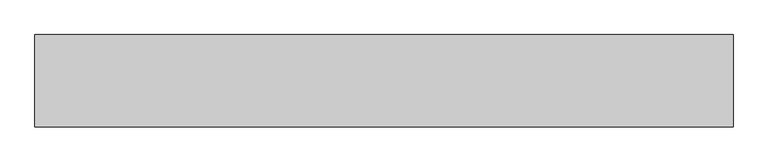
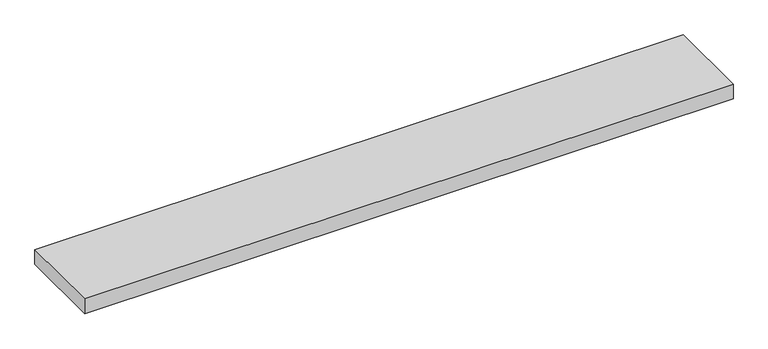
"""IFC4 building model written with IfcOpenShell, lengths in millimetres: proxy geometry, Modèles génériques 7 : Modèles génériques 7."""

from ifc_helpers import new_model, si_unit, frame, origin, place, context, project, spatial, polyline, outline, extrude, source, transform, mapped, element, save


def generic_models_5fac37e3(model_context):
    return source(origin(), model_context, "Body", "SweptSolid", [
        extrude(outline(polyline([(-7228.7993027, 3203.736413), (1071.2006973, 3203.736413), (1071.2006973, 2103.736413), (-7228.7993027, 2103.736413), (-7228.7993027, 3203.736413)])), frame((0.0, 0.0, -260.0), z_axis=(0.0, 0.0, 1.0), x_axis=(1.0, 0.0, 0.0)), (0.0, 0.0, 1.0), 200.0),
    ])


if __name__ == "__main__":
    model = new_model("IFC4")
    model_context = context("Model", 3, world=origin())
    ifc_project = project(units=[si_unit("LENGTHUNIT", "METRE", prefix="MILLI")], contexts=[model_context])
    site = spatial("IfcSite", under=ifc_project)
    building = spatial("IfcBuilding", under=site)
    placement = place(None, origin())
    generic_models_shape = generic_models_5fac37e3(model_context)
    element("IfcBuildingElementProxy", 1, Name="Modèles génériques 7 : Modèles génériques 7", ObjectType="Modèles génériques 7 : Modèles génériques 7", at=placement, inside=building, context=model_context, shape_type="MappedRepresentation", body=[
        mapped(generic_models_shape, transform((0.0, 0.0, 0.0), x_axis=(1.0, 0.0, 0.0), y_axis=(0.0, 1.0, 0.0), z_axis=(0.0, 0.0, 1.0))),
    ])
    save(model, "model.ifc")
